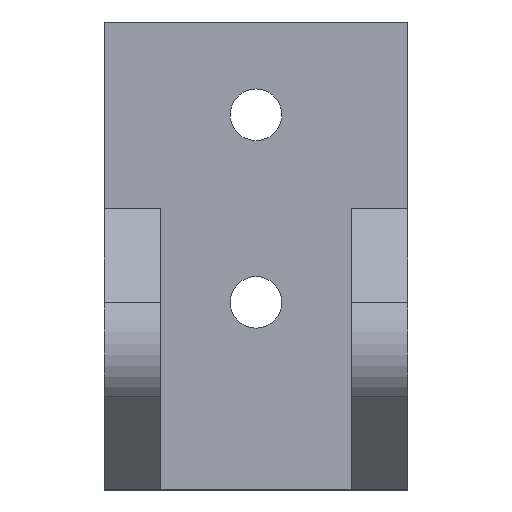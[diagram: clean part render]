
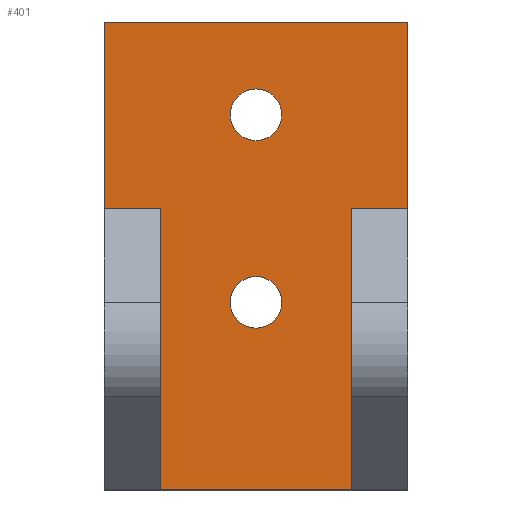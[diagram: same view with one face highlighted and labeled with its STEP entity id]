
A CAD part, left-side view. The second image highlights one B-rep face of the part: STEP entity #401.
In plain terms, the highlighted planar face has unit normal (-1, 0, 0) as drawn and (0, 0, 1) by its records, which use the part's own axes.
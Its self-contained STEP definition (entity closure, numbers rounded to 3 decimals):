
#21=FACE_BOUND('',#80,.T.);
#22=FACE_BOUND('',#81,.T.);
#33=CIRCLE('',#443,2.75);
#34=CIRCLE('',#444,2.75);
#57=FACE_OUTER_BOUND('',#79,.T.);
#79=EDGE_LOOP('',(#327,#328,#329,#330,#331,#332,#333,#334));
#80=EDGE_LOOP('',(#335));
#81=EDGE_LOOP('',(#336));
#94=LINE('',#576,#136);
#102=LINE('',#593,#144);
#120=LINE('',#637,#162);
#124=LINE('',#644,#166);
#125=LINE('',#646,#167);
#127=LINE('',#651,#169);
#128=LINE('',#655,#170);
#129=LINE('',#656,#171);
#136=VECTOR('',#464,10.);
#144=VECTOR('',#474,10.);
#162=VECTOR('',#514,10.);
#166=VECTOR('',#520,10.);
#167=VECTOR('',#523,10.);
#169=VECTOR('',#529,10.);
#170=VECTOR('',#534,10.);
#171=VECTOR('',#535,10.);
#177=VERTEX_POINT('',#572);
#179=VERTEX_POINT('',#575);
#186=VERTEX_POINT('',#590);
#187=VERTEX_POINT('',#592);
#201=VERTEX_POINT('',#634);
#202=VERTEX_POINT('',#636);
#203=VERTEX_POINT('',#640);
#204=VERTEX_POINT('',#642);
#207=VERTEX_POINT('',#657);
#208=VERTEX_POINT('',#659);
#214=EDGE_CURVE('',#177,#179,#94,.T.);
#222=EDGE_CURVE('',#187,#186,#102,.T.);
#244=EDGE_CURVE('',#202,#201,#120,.T.);
#248=EDGE_CURVE('',#203,#204,#124,.T.);
#249=EDGE_CURVE('',#203,#177,#125,.T.);
#252=EDGE_CURVE('',#202,#186,#127,.T.);
#254=EDGE_CURVE('',#179,#201,#128,.T.);
#255=EDGE_CURVE('',#204,#187,#129,.T.);
#256=EDGE_CURVE('',#207,#207,#33,.T.);
#257=EDGE_CURVE('',#208,#208,#34,.T.);
#327=ORIENTED_EDGE('',*,*,#222,.T.);
#328=ORIENTED_EDGE('',*,*,#252,.F.);
#329=ORIENTED_EDGE('',*,*,#244,.T.);
#330=ORIENTED_EDGE('',*,*,#254,.F.);
#331=ORIENTED_EDGE('',*,*,#214,.F.);
#332=ORIENTED_EDGE('',*,*,#249,.F.);
#333=ORIENTED_EDGE('',*,*,#248,.T.);
#334=ORIENTED_EDGE('',*,*,#255,.T.);
#335=ORIENTED_EDGE('',*,*,#256,.F.);
#336=ORIENTED_EDGE('',*,*,#257,.F.);
#385=PLANE('',#442);
#401=ADVANCED_FACE('',(#57,#21,#22),#385,.F.);
#442=AXIS2_PLACEMENT_3D('',#654,#532,#533);
#443=AXIS2_PLACEMENT_3D('',#658,#536,#537);
#444=AXIS2_PLACEMENT_3D('',#660,#538,#539);
#464=DIRECTION('',(0.,-1.,0.));
#474=DIRECTION('',(0.,-1.,0.));
#514=DIRECTION('',(0.,-1.,0.));
#520=DIRECTION('',(0.,-1.,0.));
#523=DIRECTION('',(1.,0.,0.));
#529=DIRECTION('',(-1.,0.,0.));
#532=DIRECTION('center_axis',(0.,0.,
-1.));
#533=DIRECTION('ref_axis',(-1.,0.,0.));
#534=DIRECTION('',(-1.,0.,0.));
#535=DIRECTION('',(-1.,0.,0.));
#536=DIRECTION('center_axis',(0.,0.,
1.));
#537=DIRECTION('ref_axis',(1.,0.,0.));
#538=DIRECTION('center_axis',(0.,0.,
1.));
#539=DIRECTION('ref_axis',(1.,0.,0.));
#572=CARTESIAN_POINT('',(-210.112,206.2,-270.));
#575=CARTESIAN_POINT('',(-210.112,173.8,-270.));
#576=CARTESIAN_POINT('',(-210.112,206.4,-270.));
#590=CARTESIAN_POINT('',(-260.,179.8,-270.));
#592=CARTESIAN_POINT('',(-260.,200.2,-270.));
#593=CARTESIAN_POINT('',(-260.,193.2,-270.));
#634=CARTESIAN_POINT('',(-230.,173.8,-270.));
#636=CARTESIAN_POINT('',(-230.,179.8,-270.));
#637=CARTESIAN_POINT('',(-230.,206.4,-270.));
#640=CARTESIAN_POINT('',(-230.,206.2,-270.));
#642=CARTESIAN_POINT('',(-230.,200.2,-270.));
#644=CARTESIAN_POINT('',(-230.,206.4,-270.));
#646=CARTESIAN_POINT('',(-193.768,206.2,-270.));
#651=CARTESIAN_POINT('',(-183.768,179.8,-270.));
#654=CARTESIAN_POINT('Origin',(-210.,180.,-270.));
#655=CARTESIAN_POINT('',(-193.768,173.8,-270.));
#656=CARTESIAN_POINT('',(-183.768,200.2,-270.));
#657=CARTESIAN_POINT('',(-222.75,190.,-270.));
#658=CARTESIAN_POINT('Origin',(-220.,190.,-270.));
#659=CARTESIAN_POINT('',(-242.75,190.,-270.));
#660=CARTESIAN_POINT('Origin',(-240.,190.,-270.));
